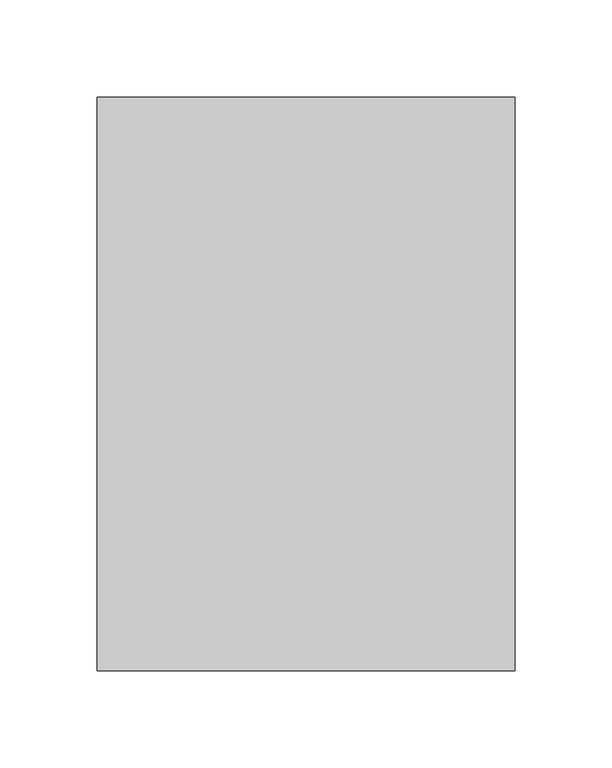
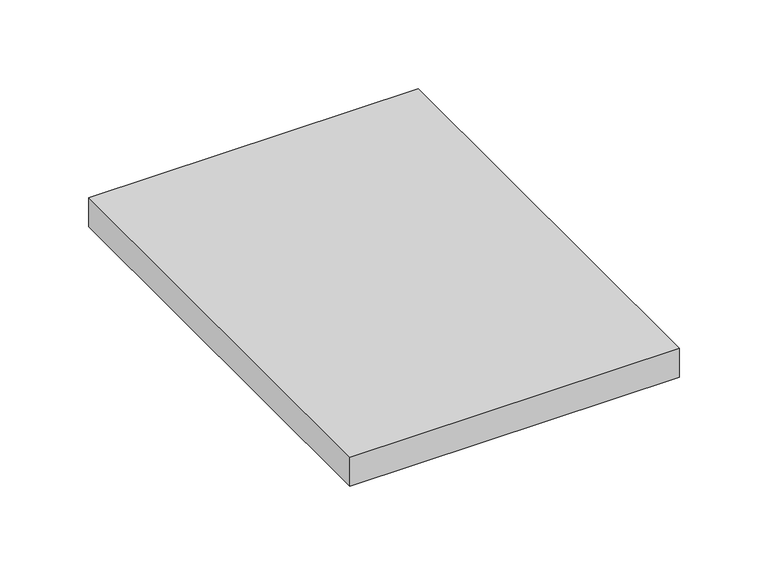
"""IFC4 building model written with IfcOpenShell, lengths in millimetres: proxy geometry, GM_Отделка : Подступенок."""

from ifc_helpers import new_model, si_unit, origin, origin_with_axes, place, context, project, spatial, polyline, outline, extrude, source, transform, mapped, element, save


def generic_models_efc2a69a(model_context):
    return source(origin(), model_context, "Body", "SweptSolid", [
        extrude(outline(polyline([(-135.0, 147.5), (-135.0, -147.5), (-350.0, -147.5), (-350.0, 147.5), (-135.0, 147.5)])), origin_with_axes(), (0.0, 0.0, 1.0), 20.0),
    ])


if __name__ == "__main__":
    model = new_model("IFC4")
    model_context = context("Model", 3, world=origin())
    ifc_project = project(units=[si_unit("LENGTHUNIT", "METRE", prefix="MILLI")], contexts=[model_context])
    site = spatial("IfcSite", under=ifc_project)
    building = spatial("IfcBuilding", under=site)
    placement = place(None, origin())
    generic_models_shape = generic_models_efc2a69a(model_context)
    element("IfcBuildingElementProxy", 1, Name="GM_Отделка : Подступенок", ObjectType="GM_Отделка : Подступенок", at=placement, inside=building, context=model_context, shape_type="MappedRepresentation", body=[
        mapped(generic_models_shape, transform((0.0, 0.0, 0.0), x_axis=(1.0, 0.0, 0.0), y_axis=(0.0, 1.0, 0.0), z_axis=(0.0, 0.0, 1.0))),
    ])
    save(model, "model.ifc")
